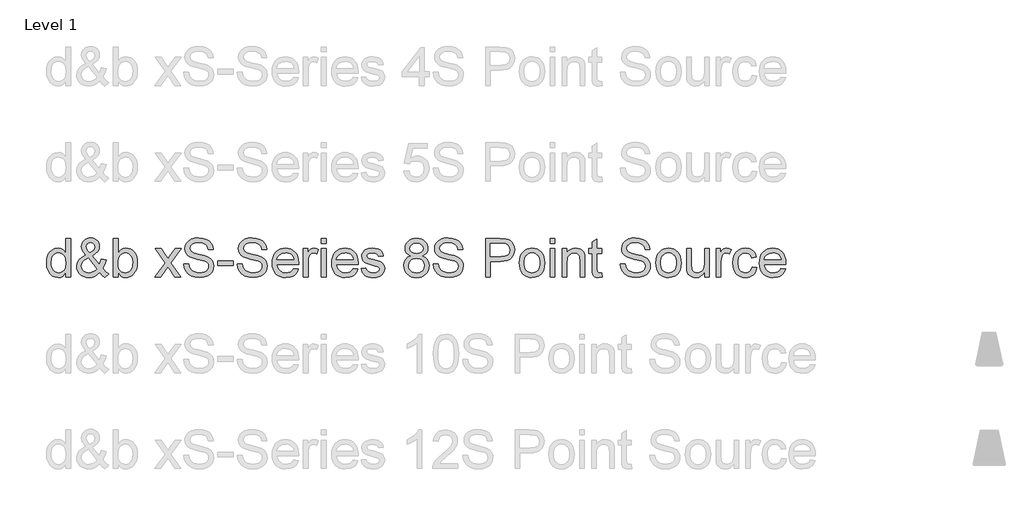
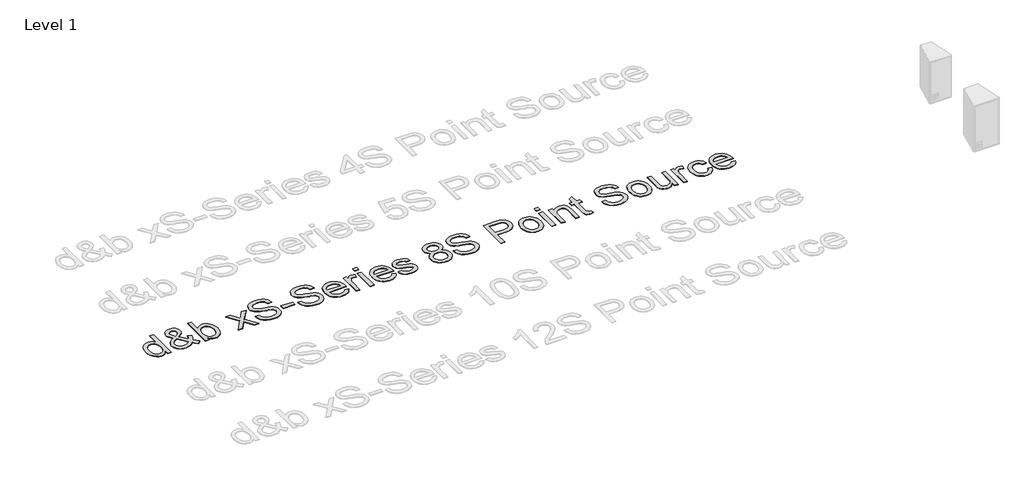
# One storey, part 48 of 55: 1 proxy.
"""IFC4 building model written with IfcOpenShell, lengths in millimetres."""

from ifc_helpers import new_model, si_unit, origin, origin_with_axes, place, context, project, spatial, polyline, outline, extrude, element, save

model = new_model("IFC4")

# Units and contexts
model_context = context("Model", 3, world=origin())
ifc_project = project(units=[si_unit("LENGTHUNIT", "METRE", prefix="MILLI")], contexts=[model_context])

# Site, building, storey
site = spatial("IfcSite", under=ifc_project)
building = spatial("IfcBuilding", under=site)
storey = spatial("IfcBuildingStorey", under=building, Name="Level 1", Elevation=0.0)

# Proxy
placement = place(None, origin())
element("IfcBuildingElementProxy", 1, Name="400mm Arial", ObjectType="400mm Arial", at=placement, inside=storey, context=model_context, shape_type="SweptSolid", body=[
    extrude(outline(polyline([(-20879.8211974, 14351.3054836), (-20879.8211974, 14398.6886846), (-20894.8491769, 14375.2116819), (-20913.0532043, 14358.4423943), (-20934.4332796, 14348.3808217), (-20958.9894028, 14345.0269642), (-20991.4611202, 14349.8830065), (-21021.1859854, 14364.4511335), (-21046.3491139, 14387.7135384), (-21065.1356211, 14418.6524142), (-21076.8342686, 14456.0169621), (-21080.7338177, 14498.5563835), (-21077.1408369, 14540.5685074), (-21066.3618944, 14578.5094038), (-21048.4092531, 14610.2208318), (-21023.2951755, 14633.5445503), (-20992.9203855, 14647.8919481), (-20959.1856065, 14652.674414), (-20934.6110892, 14649.2531115), (-20912.8815261, 14638.9892038), (-20894.4629008, 14623.2561171), (-20879.8211974, 14603.4272776), (-20879.8211974, 14753.1307242), (-20829.5930424, 14753.1307242), (-20829.5930424, 14351.3054836), (-20879.8211974, 14351.3054836)]), holes=[polyline([(-21030.5056627, 14498.7525872), (-21029.089317, 14474.3957335), (-21024.8402799, 14453.3191608), (-21017.7585515, 14435.5228693), (-21007.8441318, 14421.0068589), (-20983.1469871, 14401.6930542), (-20969.2717046, 14396.864603), (-20954.3786151, 14395.2551193), (-20939.415015, 14396.7910266), (-20925.6225058, 14401.3987486), (-20901.5507606, 14419.8296365), (-20892.0440767, 14433.7386416), (-20885.2535882, 14450.8911397), (-20879.8211974, 14494.9266145), (-20885.3516901, 14543.0701049), (-20892.2648059, 14561.6052261), (-20901.9431681, 14576.4492646), (-20913.6448812, 14587.8229496), (-20926.6280499, 14595.9470104), (-20940.8926743, 14600.8214468), (-20956.4387543, 14602.4462589), (-20971.6261493, 14600.8858262), (-20985.5014319, 14596.2045278), (-20998.064602, 14588.4023638), (-21009.3156597, 14577.4793342), (-21018.586286, 14563.1963157), (-21025.2081619, 14545.3141851), (-21030.5056627, 14498.7525872)])]), origin_with_axes(), (0.0, 0.0, 1.0), 5.0),
    extrude(outline(polyline([(-20523.809528, 14400.9450275), (-20549.3405384, 14376.4808748), (-20577.0788409, 14359.00648), (-20607.0734862, 14348.5218431), (-20639.3735254, 14345.0269642), (-20668.6814577, 14347.6144009), (-20694.8010793, 14355.376711), (-20717.7323904, 14368.3138945), (-20737.4753908, 14386.4259514), (-20750.308341, 14403.7961129), (-20759.4747341, 14422.1595558), (-20764.9745699, 14441.5162802), (-20766.8078485, 14461.8662859), (-20760.9094739, 14497.0603301), (-20743.2143499, 14528.6736562), (-20713.796053, 14556.6817387), (-20672.7281596, 14581.0600523), (-20694.6416638, 14609.4114914), (-20707.7995765, 14631.8768186), (-20714.3846642, 14651.0557332), (-20716.5796934, 14669.5479349), (-20714.8506481, 14687.1020374), (-20709.6635119, 14703.4666548), (-20701.018285, 14718.6417871), (-20688.9149674, 14732.6274343), (-20674.1935562, 14744.3444759), (-20657.6940487, 14752.7137912), (-20639.4164449, 14757.7353805), (-20619.3607448, 14759.4092436), (-20600.212487, 14757.8089569), (-20582.8913764, 14753.0080968), (-20567.397413, 14745.0066634), (-20553.7305969, 14733.8046567), (-20542.5715097, 14720.3585698), (-20534.6007332, 14705.6248959), (-20529.8182672, 14689.603635), (-20528.2241119, 14672.2947871), (-20532.9452642, 14644.31123), (-20547.108721, 14618.436863), (-20570.7144823, 14594.6716861), (-20603.7625482, 14573.0156993), (-20531.069066, 14482.4676776), (-20518.6837055, 14508.3420446), (-20509.3885538, 14538.0914353), (-20459.1603987, 14527.2021282), (-20474.6114425, 14480.6773185), (-20494.6732739, 14444.5022557), (-20466.1256311, 14411.1966724), (-20434.0463211, 14383.6790991), (-20471.7174374, 14345.0269642), (-20497.3465498, 14368.47331), (-20523.809528, 14400.9450275)]), holes=[polyline([(-20557.4584678, 14437.1446158), (-20647.1235727, 14549.0788442), (-20681.3733865, 14527.2266537), (-20702.305872, 14506.9931439), (-20713.0112381, 14487.6670765), (-20716.5796934, 14468.5372127), (-20711.6991256, 14444.8456122), (-20697.0574222, 14420.2710949), (-20686.2784798, 14409.3266056), (-20673.4639236, 14401.5091132), (-20658.6137537, 14396.8186177), (-20641.7279702, 14395.2551193), (-20619.0051256, 14398.1736498), (-20595.5710425, 14406.9292412), (-20574.1480476, 14420.3201459), (-20557.4584678, 14437.1446158)]), polyline([(-20629.1709314, 14604.7026019), (-20602.9041569, 14621.3676562), (-20587.8700461, 14635.8499441), (-20580.8067117, 14649.9398245), (-20578.452267, 14665.4276565), (-20581.5547385, 14682.9756277), (-20590.862153, 14696.9674062), (-20604.829406, 14706.1276679), (-20621.9113933, 14709.1810885), (-20639.3612626, 14706.1521934), (-20653.6473468, 14697.0655081), (-20663.1754905, 14683.6132898), (-20666.3515384, 14667.4877957), (-20662.0350563, 14649.0936959), (-20648.9875082, 14628.639457), (-20629.1709314, 14604.7026019)])]), origin_with_axes(), (0.0, 0.0, 1.0), 5.0),
    extrude(outline(polyline([(-20333.590011, 14351.3054836), (-20383.8181661, 14351.3054836), (-20383.8181661, 14753.1307242), (-20333.590011, 14753.1307242), (-20333.590011, 14604.1139907), (-20317.0721094, 14625.3591759), (-20298.4204923, 14640.5343082), (-20277.6351595, 14649.6393876), (-20254.7161112, 14652.674414), (-20228.8417442, 14649.9398245), (-20204.3898543, 14641.736056), (-20182.758393, 14628.5781433), (-20165.3453119, 14610.9811212), (-20151.6968898, 14589.116668), (-20141.3594058, 14563.1564619), (-20134.8478945, 14534.1796234), (-20132.6773907, 14503.265273), (-20134.9245365, 14467.5929822), (-20141.6659741, 14436.2126481), (-20152.9017034, 14409.1242705), (-20168.6317244, 14386.3278495), (-20187.5132678, 14368.2587122), (-20208.2035643, 14355.3521855), (-20230.702614, 14347.6082695), (-20255.0104168, 14345.0269642), (-20278.6836232, 14348.3562962), (-20299.671291, 14358.3442924), (-20317.9734203, 14374.9909527), (-20333.590011, 14398.2962771), (-20333.590011, 14351.3054836)]), holes=[polyline([(-20333.590011, 14500.9108283), (-20330.1564457, 14459.0213318), (-20319.8557498, 14430.6698927), (-20307.6849872, 14415.1759293), (-20293.5399244, 14404.1088126), (-20277.4205617, 14397.4685426), (-20259.3268989, 14395.2551193), (-20244.3050508, 14396.8860628), (-20230.3377977, 14401.7788933), (-20217.4251396, 14409.9336109), (-20205.5670767, 14421.3502155), (-20195.6526569, 14435.9980502), (-20188.5709285, 14453.8464584), (-20184.3218914, 14474.8954399), (-20182.9055458, 14499.1449947), (-20188.3379366, 14545.1057186), (-20195.1284251, 14562.8989445), (-20204.6351089, 14577.2340795), (-20216.0670419, 14588.264408), (-20228.6332778, 14596.1432141), (-20242.3338164, 14600.8704977), (-20257.1686579, 14602.4462589), (-20272.190506, 14600.8153154), (-20286.1577591, 14595.9224849), (-20299.0704171, 14587.7677673), (-20310.9284801, 14576.3511628), (-20320.8428999, 14561.8504808), (-20327.9246283, 14544.443531), (-20332.1736653, 14524.1303135), (-20333.590011, 14500.9108283)])]), origin_with_axes(), (0.0, 0.0, 1.0), 5.0),
    extrude(outline(polyline([(-19950.6003285, 14351.3054836), (-19843.2768878, 14499.7336059), (-19944.3218092, 14646.3958946), (-19884.0872638, 14646.3958946), (-19835.3306367, 14575.6644497), (-19812.4729021, 14542.4079173), (-19792.6563253, 14569.6802359), (-19737.1306695, 14646.3958946), (-19676.6999204, 14646.3958946), (-19782.8461387, 14499.635504), (-19680.623995, 14351.3054836), (-19740.9566422, 14351.3054836), (-19802.5646137, 14440.5781811), (-19813.7482263, 14456.9611926), (-19890.1695795, 14351.3054836), (-19950.6003285, 14351.3054836)])), origin_with_axes(), (0.0, 0.0, 1.0), 5.0),
    extrude(outline(polyline([(-19649.2313981, 14489.43291), (-19599.003243, 14489.43291), (-19593.2397584, 14461.5597175), (-19582.8164352, 14439.155704), (-19566.556051, 14421.3747409), (-19543.2813835, 14407.3706996), (-19514.8318425, 14398.2840144), (-19483.0468381, 14395.2551193), (-19455.063281, 14397.5482504), (-19430.5623402, 14404.4276437), (-19410.7089752, 14415.3169507), (-19396.6681457, 14429.6398231), (-19388.3172244, 14446.0841483), (-19385.533584, 14463.3378138), (-19387.6182486, 14480.150021), (-19393.8722425, 14494.6813598), (-19406.5764341, 14507.0789831), (-19428.0116917, 14517.4900435), (-19501.1466323, 14536.6689582), (-19549.1552327, 14549.360887), (-19579.8733793, 14561.4396792), (-19604.8770922, 14578.3377255), (-19622.5967416, 14598.8164899), (-19633.1549549, 14622.434514), (-19636.6743593, 14648.7503394), (-19632.3210891, 14678.1686363), (-19619.2612782, 14705.6003704), (-19597.8382834, 14728.8505125), (-19568.395461, 14745.7240333), (-19533.054264, 14755.987941), (-19493.9361452, 14759.4092436), (-19451.5561394, 14755.8285255), (-19414.4736342, 14745.0863712), (-19384.013005, 14727.40351), (-19361.4986269, 14703.000671), (-19347.249331, 14673.3984331), (-19341.5839483, 14640.1173753), (-19391.8121033, 14640.1173753), (-19401.0336787, 14670.0874951), (-19409.3968627, 14681.9455581), (-19420.2616443, 14691.7189564), (-19450.3053406, 14704.8155555), (-19491.9741079, 14709.1810885), (-19534.6238939, 14704.8646064), (-19550.9271976, 14699.4690038), (-19563.8827752, 14691.9151602), (-19580.805347, 14672.8588728), (-19586.4462043, 14650.2218674), (-19582.4485532, 14630.9203254), (-19570.4556002, 14615.3957052), (-19542.1041611, 14601.5142912), (-19488.4424407, 14587.3385717), (-19433.0639377, 14573.8740907), (-19399.5621507, 14562.1263923), (-19370.9286687, 14543.9039708), (-19350.9526764, 14521.4141181), (-19339.2172408, 14494.902089), (-19335.3054289, 14464.6131381), (-19339.805852, 14433.6497368), (-19353.3071212, 14404.5257455), (-19375.2574136, 14379.4607189), (-19405.1049061, 14360.6742117), (-19440.9979261, 14348.9387761), (-19481.0848008, 14345.0269642), (-19530.2951491, 14349.2453444), (-19570.7989567, 14361.900485), (-19603.0622077, 14383.041437), (-19627.5508858, 14412.7172513), (-19643.2717098, 14448.8677887), (-19649.2313981, 14489.43291)])), origin_with_axes(), (0.0, 0.0, 1.0), 5.0),
    extrude(outline(polyline([(-19291.3557932, 14470.5973519), (-19291.3557932, 14520.825507), (-19134.3928086, 14520.825507), (-19134.3928086, 14470.5973519), (-19291.3557932, 14470.5973519)])), origin_with_axes(), (0.0, 0.0, 1.0), 5.0),
    extrude(outline(polyline([(-19090.4431729, 14489.43291), (-19040.2150178, 14489.43291), (-19034.4515332, 14461.5597175), (-19024.02821, 14439.155704), (-19007.7678258, 14421.3747409), (-18984.4931583, 14407.3706996), (-18956.0436173, 14398.2840144), (-18924.2586129, 14395.2551193), (-18896.2750558, 14397.5482504), (-18871.774115, 14404.4276437), (-18851.9207499, 14415.3169507), (-18837.8799205, 14429.6398231), (-18829.5289992, 14446.0841483), (-18826.7453587, 14463.3378138), (-18828.8300234, 14480.150021), (-18835.0840173, 14494.6813598), (-18847.7882089, 14507.0789831), (-18869.2234665, 14517.4900435), (-18942.3584071, 14536.6689582), (-18990.3670075, 14549.360887), (-19021.0851541, 14561.4396792), (-19046.088867, 14578.3377255), (-19063.8085164, 14598.8164899), (-19074.3667297, 14622.434514), (-19077.8861341, 14648.7503394), (-19073.5328638, 14678.1686363), (-19060.473053, 14705.6003704), (-19039.0500582, 14728.8505125), (-19009.6072358, 14745.7240333), (-18974.2660388, 14755.987941), (-18935.14792, 14759.4092436), (-18892.7679141, 14755.8285255), (-18855.685409, 14745.0863712), (-18825.2247798, 14727.40351), (-18802.7104017, 14703.000671), (-18788.4611058, 14673.3984331), (-18782.7957231, 14640.1173753), (-18833.0238781, 14640.1173753), (-18842.2454535, 14670.0874951), (-18850.6086375, 14681.9455581), (-18861.4734191, 14691.7189564), (-18891.5171154, 14704.8155555), (-18933.1858827, 14709.1810885), (-18975.8356687, 14704.8646064), (-18992.1389724, 14699.4690038), (-19005.09455, 14691.9151602), (-19022.0171218, 14672.8588728), (-19027.657979, 14650.2218674), (-19023.660328, 14630.9203254), (-19011.667375, 14615.3957052), (-18983.3159359, 14601.5142912), (-18929.6542155, 14587.3385717), (-18874.2757125, 14573.8740907), (-18840.7739255, 14562.1263923), (-18812.1404435, 14543.9039708), (-18792.1644512, 14521.4141181), (-18780.4290156, 14494.902089), (-18776.5172037, 14464.6131381), (-18781.0176267, 14433.6497368), (-18794.518896, 14404.5257455), (-18816.4691883, 14379.4607189), (-18846.3166809, 14360.6742117), (-18882.2097009, 14348.9387761), (-18922.2965756, 14345.0269642), (-18971.5069238, 14349.2453444), (-19012.0107315, 14361.900485), (-19044.2739825, 14383.041437), (-19068.7626606, 14412.7172513), (-19084.4834846, 14448.8677887), (-19090.4431729, 14489.43291)])), origin_with_axes(), (0.0, 0.0, 1.0), 5.0),
    extrude(outline(polyline([(-18500.850962, 14439.204755), (-18451.6038255, 14432.9262356), (-18459.1546035, 14413.2016293), (-18469.3480004, 14395.819205), (-18482.1840164, 14380.7789628), (-18497.6626513, 14368.0809026), (-18515.6244897, 14357.9948045), (-18535.9101161, 14350.7904488), (-18583.4527326, 14345.0269642), (-18614.618469, 14347.5132333), (-18642.3874282, 14354.9720408), (-18666.7596104, 14367.4033865), (-18687.7350155, 14384.8072706), (-18704.602405, 14406.699315), (-18716.6505403, 14432.5951418), (-18723.8794215, 14462.4947509), (-18726.2890486, 14496.3981425), (-18723.8548961, 14531.4511652), (-18716.5524385, 14562.3471215), (-18704.3816758, 14589.0860112), (-18687.342608, 14611.6678343), (-18666.4223852, 14629.6082129), (-18642.6081574, 14642.4227691), (-18615.8999246, 14650.1115028), (-18586.2976867, 14652.674414), (-18557.6488763, 14650.1176342), (-18531.7407868, 14642.4472946), (-18508.5734182, 14629.6633952), (-18488.1467704, 14611.7659362), (-18471.472519, 14589.233164), (-18459.5623394, 14562.5433252), (-18452.4162316, 14531.6964199), (-18450.0341957, 14496.6924481), (-18450.3285013, 14483.1543906), (-18676.0608935, 14483.1543906), (-18673.1515601, 14463.1109533), (-18667.3666157, 14445.5568507), (-18658.7060604, 14430.492083), (-18647.1698942, 14417.9166502), (-18633.3957791, 14408.0022304), (-18618.0213774, 14400.920502), (-18582.4717139, 14395.2551193), (-18555.7389556, 14397.8793442), (-18533.2245775, 14405.7520189), (-18514.9285796, 14419.3636527), (-18500.850962, 14439.204755)]), holes=[polyline([(-18676.0608935, 14533.3825457), (-18500.2623508, 14533.3825457), (-18507.0559049, 14559.9191003), (-18520.3732332, 14578.9018113), (-18534.0707061, 14589.2025071), (-18549.65664, 14596.560147), (-18567.1310348, 14600.974731), (-18586.4938904, 14602.4462589), (-18620.3512967, 14597.7496321), (-18648.3471166, 14583.6597517), (-18667.8080741, 14561.6971966), (-18676.0608935, 14533.3825457)])]), origin_with_axes(), (0.0, 0.0, 1.0), 5.0),
    extrude(outline(polyline([(-18399.8060406, 14351.3054836), (-18399.8060406, 14646.3958946), (-18355.8564049, 14646.3958946), (-18355.8564049, 14602.7405645), (-18339.6205462, 14628.0508458), (-18324.6600117, 14642.9623293), (-18309.6504263, 14650.2463929), (-18293.2674148, 14652.674414), (-18268.2514391, 14648.7993903), (-18242.843056, 14637.1743193), (-18259.618475, 14592.1455631), (-18277.2768108, 14599.871085), (-18294.9351465, 14602.4462589), (-18309.9324692, 14599.9691868), (-18323.3356365, 14592.5379705), (-18334.1636299, 14580.7166958), (-18341.4354307, 14565.0694482), (-18347.5422718, 14537.0123147), (-18349.5778855, 14506.4045327), (-18349.5778855, 14351.3054836), (-18399.8060406, 14351.3054836)])), origin_with_axes(), (0.0, 0.0, 1.0), 5.0),
    extrude(outline(polyline([(-18211.4504591, 14702.9025691), (-18211.4504591, 14753.1307242), (-18161.222304, 14753.1307242), (-18161.222304, 14702.9025691), (-18211.4504591, 14702.9025691)])), origin_with_axes(), (0.0, 0.0, 1.0), 5.0),
    extrude(outline(polyline([(-18211.4504591, 14351.3054836), (-18211.4504591, 14646.3958946), (-18161.222304, 14646.3958946), (-18161.222304, 14351.3054836), (-18211.4504591, 14351.3054836)])), origin_with_axes(), (0.0, 0.0, 1.0), 5.0),
    extrude(outline(polyline([(-17879.2775429, 14439.204755), (-17830.0304065, 14432.9262356), (-17837.5811844, 14413.2016293), (-17847.7745814, 14395.819205), (-17860.6105973, 14380.7789628), (-17876.0892323, 14368.0809026), (-17894.0510707, 14357.9948045), (-17914.336697, 14350.7904488), (-17961.8793136, 14345.0269642), (-17993.0450499, 14347.5132333), (-18020.8140092, 14354.9720408), (-18045.1861914, 14367.4033865), (-18066.1615965, 14384.8072706), (-18083.0289859, 14406.699315), (-18095.0771213, 14432.5951418), (-18102.3060025, 14462.4947509), (-18104.7156295, 14496.3981425), (-18102.281477, 14531.4511652), (-18094.9790194, 14562.3471215), (-18082.8082567, 14589.0860112), (-18065.769189, 14611.6678343), (-18044.8489662, 14629.6082129), (-18021.0347384, 14642.4227691), (-17994.3265055, 14650.1115028), (-17964.7242676, 14652.674414), (-17936.0754573, 14650.1176342), (-17910.1673678, 14642.4472946), (-17886.9999991, 14629.6633952), (-17866.5733513, 14611.7659362), (-17849.8990999, 14589.233164), (-17837.9889203, 14562.5433252), (-17830.8428126, 14531.6964199), (-17828.4607766, 14496.6924481), (-17828.7550822, 14483.1543906), (-18054.4874745, 14483.1543906), (-18051.578141, 14463.1109533), (-18045.7931967, 14445.5568507), (-18037.1326413, 14430.492083), (-18025.5964751, 14417.9166502), (-18011.8223601, 14408.0022304), (-17996.4479584, 14400.920502), (-17960.8982949, 14395.2551193), (-17934.1655366, 14397.8793442), (-17911.6511585, 14405.7520189), (-17893.3551606, 14419.3636527), (-17879.2775429, 14439.204755)]), holes=[polyline([(-18054.4874745, 14533.3825457), (-17878.6889317, 14533.3825457), (-17885.4824859, 14559.9191003), (-17898.7998141, 14578.9018113), (-17912.4972871, 14589.2025071), (-17928.0832209, 14596.560147), (-17945.5576157, 14600.974731), (-17964.9204714, 14602.4462589), (-17998.7778777, 14597.7496321), (-18026.7736975, 14583.6597517), (-18046.234655, 14561.6971966), (-18054.4874745, 14533.3825457)])]), origin_with_axes(), (0.0, 0.0, 1.0), 5.0),
    extrude(outline(polyline([(-17797.0681797, 14439.204755), (-17746.8400246, 14445.4832743), (-17738.918299, 14423.9989658), (-17723.5898825, 14408.2045655), (-17700.7566734, 14398.4924808), (-17670.3205696, 14395.2551193), (-17640.2523479, 14398.2227007), (-17619.1113959, 14407.125445), (-17606.6034081, 14420.0258403), (-17602.4340788, 14434.9863747), (-17606.6279335, 14447.7886682), (-17619.2094978, 14457.5498038), (-17670.9091808, 14471.8726761), (-17746.545719, 14496.4471934), (-17765.6878455, 14508.7957657), (-17779.5569967, 14525.141989), (-17787.9814944, 14544.443531), (-17790.7896603, 14565.6580594), (-17788.5333174, 14585.119017), (-17781.7642887, 14603.0839211), (-17771.0957109, 14618.8415332), (-17757.1407205, 14631.6806148), (-17725.2085633, 14646.5430474), (-17704.3251287, 14651.1415724), (-17681.9946916, 14652.674414), (-17649.302245, 14650.2096047), (-17620.8772295, 14642.8151766), (-17598.0194949, 14631.214631), (-17582.0288908, 14616.1314692), (-17571.4338893, 14596.4497824), (-17564.7629625, 14571.053662), (-17614.9911176, 14564.7751426), (-17621.3309506, 14580.5818057), (-17633.8757267, 14592.4889196), (-17652.748073, 14599.9569241), (-17678.070617, 14602.4462589), (-17706.9125654, 14600.0672887), (-17726.140531, 14592.930378), (-17736.9562617, 14582.6296821), (-17740.5615053, 14570.7593564), (-17734.5772915, 14556.1421785), (-17715.8398352, 14545.0566677), (-17672.5769125, 14534.3635644), (-17598.8533607, 14510.7210148), (-17579.3801404, 14499.4147748), (-17564.6158097, 14483.9392056), (-17555.3083952, 14464.2452561), (-17552.2059237, 14440.2838755), (-17555.8479555, 14415.5131545), (-17566.7740507, 14392.2139614), (-17584.5672766, 14372.2134436), (-17608.8107, 14357.3387483), (-17638.0941069, 14348.1049102), (-17671.0072827, 14345.0269642), (-17698.040478, 14346.5107549), (-17721.6523707, 14350.962127), (-17741.8429609, 14358.3810806), (-17758.6122485, 14368.7676156), (-17772.3097214, 14382.0726811), (-17783.2848676, 14398.2472262), (-17791.5376871, 14417.2912508), (-17797.0681797, 14439.204755)])), origin_with_axes(), (0.0, 0.0, 1.0), 5.0),
    extrude(outline(polyline([(-17278.1093119, 14572.6232919), (-17305.0014857, 14585.8670437), (-17323.8738321, 14603.8196851), (-17335.0206565, 14626.113334), (-17338.7362647, 14652.3801084), (-17336.7129137, 14672.8650042), (-17330.6428608, 14691.64538), (-17320.5261059, 14708.721236), (-17306.3626491, 14724.092572), (-17288.833072, 14736.7967636), (-17268.6179564, 14745.8711861), (-17245.7173022, 14751.3158397), (-17220.1311094, 14753.1307242), (-17194.4222893, 14751.2729201), (-17171.3499568, 14745.6995079), (-17150.914112, 14736.4104875), (-17133.1147548, 14723.405859), (-17118.6937806, 14707.734086), (-17108.3930847, 14690.4436322), (-17102.2126672, 14671.5344976), (-17100.152528, 14651.0066823), (-17103.8190853, 14625.5860364), (-17114.8187569, 14603.6725323), (-17133.2741703, 14585.8302555), (-17159.3079529, 14572.6232919), (-17128.3936025, 14556.6940015), (-17105.8914872, 14533.2353929), (-17092.1694888, 14503.3756376), (-17087.5954893, 14468.2429071), (-17089.8640949, 14443.1901432), (-17096.6699118, 14420.222044), (-17108.01294, 14399.3386094), (-17123.8931795, 14380.5398395), (-17143.4767643, 14365.0029565), (-17165.9298288, 14353.905183), (-17191.2523728, 14347.2465189), (-17219.4443964, 14345.0269642), (-17247.6364199, 14347.2557159), (-17272.9589639, 14353.9419712), (-17295.4120284, 14365.08573), (-17314.9956132, 14380.6869923), (-17330.8758527, 14399.6175866), (-17342.2188809, 14420.7493415), (-17349.0246978, 14444.0822571), (-17351.2933034, 14469.6163332), (-17346.535363, 14506.1102271), (-17332.2615415, 14536.1293979), (-17309.2076032, 14558.6437761), (-17278.1093119, 14572.6232919)]), holes=[polyline([(-17288.5081096, 14650.9085804), (-17284.0567374, 14628.9828135), (-17270.702621, 14611.4716306), (-17248.8381678, 14599.9937123), (-17218.8557852, 14596.1677396), (-17189.5723783, 14599.9691868), (-17168.0390189, 14611.3735287), (-17154.7952671, 14628.2961005), (-17150.3806831, 14648.6522375), (-17154.9424199, 14669.7809268), (-17168.6276301, 14687.2553216), (-17190.4552951, 14698.9907572), (-17219.4443964, 14702.9025691), (-17248.6174386, 14699.0765963), (-17270.4083154, 14687.5986781), (-17283.983161, 14670.7742082), (-17288.5081096, 14650.9085804)]), polyline([(-17301.0651483, 14471.3821668), (-17298.968221, 14452.1664639), (-17292.6774389, 14433.5638977), (-17281.0646305, 14417.3403017), (-17263.0016246, 14405.2615095), (-17241.3701633, 14397.7567168), (-17219.0519889, 14395.2551193), (-17184.8634888, 14400.5158318), (-17170.9698121, 14407.0917225), (-17159.209851, 14416.2979694), (-17143.170196, 14440.1980363), (-17137.8236444, 14469.812537), (-17143.3418743, 14499.9298096), (-17159.8965641, 14524.3571741), (-17171.9753562, 14533.7994786), (-17186.1388131, 14540.5439819), (-17220.7197206, 14545.9395845), (-17254.4299741, 14540.6175583), (-17268.1673009, 14533.9650255), (-17279.8260945, 14524.6514797), (-17295.7553849, 14500.6900991), (-17301.0651483, 14471.3821668)])]), origin_with_axes(), (0.0, 0.0, 1.0), 5.0),
    extrude(outline(polyline([(-17043.6458536, 14489.43291), (-16993.4176985, 14489.43291), (-16987.6542139, 14461.5597175), (-16977.2308907, 14439.155704), (-16960.9705065, 14421.3747409), (-16937.695839, 14407.3706996), (-16909.246298, 14398.2840144), (-16877.4612936, 14395.2551193), (-16849.4777365, 14397.5482504), (-16824.9767957, 14404.4276437), (-16805.1234307, 14415.3169507), (-16791.0826012, 14429.6398231), (-16782.7316799, 14446.0841483), (-16779.9480394, 14463.3378138), (-16782.0327041, 14480.150021), (-16788.286698, 14494.6813598), (-16800.9908896, 14507.0789831), (-16822.4261472, 14517.4900435), (-16895.5610878, 14536.6689582), (-16943.5696882, 14549.360887), (-16974.2878348, 14561.4396792), (-16999.2915477, 14578.3377255), (-17017.0111971, 14598.8164899), (-17027.5694104, 14622.434514), (-17031.0888148, 14648.7503394), (-17026.7355445, 14678.1686363), (-17013.6757337, 14705.6003704), (-16992.2527389, 14728.8505125), (-16962.8099165, 14745.7240333), (-16927.4687195, 14755.987941), (-16888.3506007, 14759.4092436), (-16845.9705948, 14755.8285255), (-16808.8880897, 14745.0863712), (-16778.4274605, 14727.40351), (-16755.9130824, 14703.000671), (-16741.6637865, 14673.3984331), (-16735.9984038, 14640.1173753), (-16786.2265588, 14640.1173753), (-16795.4481342, 14670.0874951), (-16803.8113182, 14681.9455581), (-16814.6760998, 14691.7189564), (-16844.7197961, 14704.8155555), (-16886.3885634, 14709.1810885), (-16929.0383494, 14704.8646064), (-16945.3416531, 14699.4690038), (-16958.2972307, 14691.9151602), (-16975.2198025, 14672.8588728), (-16980.8606597, 14650.2218674), (-16976.8630087, 14630.9203254), (-16964.8700557, 14615.3957052), (-16936.5186166, 14601.5142912), (-16882.8568962, 14587.3385717), (-16827.4783932, 14573.8740907), (-16793.9766062, 14562.1263923), (-16765.3431242, 14543.9039708), (-16745.3671319, 14521.4141181), (-16733.6316963, 14494.902089), (-16729.7198844, 14464.6131381), (-16734.2203074, 14433.6497368), (-16747.7215767, 14404.5257455), (-16769.671869, 14379.4607189), (-16799.5193616, 14360.6742117), (-16835.4123816, 14348.9387761), (-16875.4992563, 14345.0269642), (-16924.7096046, 14349.2453444), (-16965.2134122, 14361.900485), (-16997.4766632, 14383.041437), (-17021.9653413, 14412.7172513), (-17037.6861653, 14448.8677887), (-17043.6458536, 14489.43291)])), origin_with_axes(), (0.0, 0.0, 1.0), 5.0),
    extrude(outline(polyline([(-16497.4146672, 14351.3054836), (-16497.4146672, 14753.1307242), (-16348.4960355, 14753.1307242), (-16288.4576939, 14749.3047514), (-16261.6881474, 14742.155578), (-16239.6520159, 14730.5182442), (-16221.907841, 14713.8654526), (-16208.0141643, 14691.6699055), (-16199.0378436, 14665.4889702), (-16196.0457367, 14636.8800137), (-16198.066022, 14612.2135259), (-16204.1268779, 14589.5213382), (-16214.2283043, 14568.8034505), (-16228.3703013, 14550.0598628), (-16247.7852736, 14534.5229799), (-16273.7056259, 14523.4252064), (-16306.1313581, 14516.7665423), (-16345.0624702, 14514.5469876), (-16447.1865121, 14514.5469876), (-16447.1865121, 14351.3054836), (-16497.4146672, 14351.3054836)]), holes=[polyline([(-16447.1865121, 14564.7751426), (-16342.1194143, 14564.7751426), (-16297.5811674, 14569.3859303), (-16280.9774267, 14575.1494149), (-16268.1506078, 14583.2182933), (-16258.5795445, 14593.3779678), (-16251.7430708, 14605.4138404), (-16246.2738918, 14635.1141801), (-16249.4989906, 14657.6776092), (-16259.1742871, 14676.709371), (-16274.0980333, 14691.0322434), (-16293.0684816, 14699.4690038), (-16343.2966366, 14702.9025691), (-16447.1865121, 14702.9025691), (-16447.1865121, 14564.7751426)])]), origin_with_axes(), (0.0, 0.0, 1.0), 5.0),
    extrude(outline(polyline([(-16145.8175816, 14498.8506891), (-16143.1013862, 14537.067497), (-16134.9528, 14569.999067), (-16121.371823, 14597.6453989), (-16102.3584553, 14620.0064928), (-16083.2163288, 14634.2987084), (-16062.0876395, 14644.5074337), (-16038.9723875, 14650.6326689), (-16013.8705727, 14652.674414), (-15986.1598614, 14650.1881449), (-15961.1040319, 14642.7293374), (-15938.703084, 14630.2979917), (-15918.9570179, 14612.8941076), (-15902.8407209, 14591.1062964), (-15891.3290801, 14565.5231694), (-15884.4220956, 14536.1447264), (-15882.1197675, 14502.9709675), (-15886.1909949, 14452.2277776), (-15898.4046771, 14413.6001681), (-15918.4051949, 14384.6723805), (-15945.8369291, 14363.0286565), (-15978.4190111, 14349.5273873), (-16013.8705727, 14345.0269642), (-16041.9859542, 14347.5040363), (-16067.2747757, 14354.9352526), (-16089.7370371, 14367.3206131), (-16109.3727386, 14384.6601178), (-16125.3173574, 14406.6594611), (-16136.7063709, 14433.0243374), (-16143.5397789, 14463.7547468), (-16145.8175816, 14498.8506891)]), holes=[polyline([(-16095.5894266, 14498.948791), (-16094.1362927, 14474.5858058), (-16089.776891, 14453.4908391), (-16082.5112216, 14435.6638907), (-16072.3392845, 14421.1049608), (-16059.9661867, 14409.7956551), (-16046.0970355, 14401.7175796), (-16030.7318308, 14396.8707344), (-16013.8705727, 14395.2551193), (-15997.0951537, 14396.8799314), (-15981.7912627, 14401.7543678), (-15967.9588997, 14409.8784286), (-15955.5980647, 14421.2521136), (-15945.4261275, 14435.9551307), (-15938.1604581, 14454.0671876), (-15933.8010564, 14475.5882843), (-15932.3479226, 14500.5184208), (-15933.8102535, 14524.1088538), (-15938.1972463, 14544.6519975), (-15945.5089009, 14562.1478521), (-15955.7452175, 14576.5964174), (-15968.1520377, 14587.9057231), (-15981.9752037, 14595.9837986), (-15997.2147154, 14600.8306439), (-16013.8705727, 14602.4462589), (-16030.7318308, 14600.8367752), (-16046.0970355, 14596.008324), (-16059.9661867, 14587.9609054), (-16072.3392845, 14576.6945193), (-16082.5112216, 14562.1785089), (-16089.776891, 14544.3822174), (-16094.1362927, 14523.3056447), (-16095.5894266, 14498.948791)])]), origin_with_axes(), (0.0, 0.0, 1.0), 5.0),
    extrude(outline(polyline([(-15825.613093, 14351.3054836), (-15825.613093, 14646.3958946), (-15775.384938, 14646.3958946), (-15775.384938, 14351.3054836), (-15825.613093, 14351.3054836)])), origin_with_axes(), (0.0, 0.0, 1.0), 5.0),
    extrude(outline(polyline([(-15825.613093, 14702.9025691), (-15825.613093, 14753.1307242), (-15775.384938, 14753.1307242), (-15775.384938, 14702.9025691), (-15825.613093, 14702.9025691)])), origin_with_axes(), (0.0, 0.0, 1.0), 5.0),
    extrude(outline(polyline([(-15700.0427053, 14351.3054836), (-15700.0427053, 14646.3958946), (-15649.8145503, 14646.3958946), (-15649.8145503, 14605.1931112), (-15632.364681, 14625.9661812), (-15611.40767, 14640.8040883), (-15586.9435173, 14649.7068326), (-15558.9722229, 14652.674414), (-15534.2137646, 14650.2831811), (-15511.539971, 14643.1094821), (-15492.6308365, 14632.0484968), (-15479.1663554, 14617.9954046), (-15470.0306192, 14600.9869937), (-15464.1077191, 14581.0600523), (-15461.4589687, 14532.4996289), (-15461.4589687, 14351.3054836), (-15511.6871238, 14351.3054836), (-15511.6871238, 14525.7306002), (-15513.1341263, 14551.7030691), (-15517.4751339, 14570.1707452), (-15525.4826986, 14583.4022343), (-15537.9293728, 14593.666142), (-15553.8831887, 14600.2512297), (-15572.4121785, 14602.4462589), (-15601.8304754, 14597.5166402), (-15626.9077647, 14582.727784), (-15636.9294834, 14570.6551232), (-15644.0878539, 14554.1556157), (-15648.3828762, 14533.2292616), (-15649.8145503, 14507.8760607), (-15649.8145503, 14351.3054836), (-15700.0427053, 14351.3054836)])), origin_with_axes(), (0.0, 0.0, 1.0), 5.0),
    extrude(outline(polyline([(-15285.660426, 14393.1949801), (-15279.3819066, 14349.8339556), (-15316.954921, 14345.0269642), (-15341.0634544, 14347.1116288), (-15359.0406213, 14353.3656227), (-15371.7448128, 14363.004131), (-15380.0344205, 14375.2423387), (-15384.5961572, 14396.2606634), (-15386.1167361, 14432.2395225), (-15386.1167361, 14596.1677396), (-15423.7878524, 14596.1677396), (-15423.7878524, 14646.3958946), (-15386.1167361, 14646.3958946), (-15386.1167361, 14718.1083582), (-15335.888581, 14747.6370197), (-15335.888581, 14646.3958946), (-15285.660426, 14646.3958946), (-15285.660426, 14596.1677396), (-15335.888581, 14596.1677396), (-15335.888581, 14433.7110505), (-15333.2398307, 14407.812158), (-15324.6559175, 14398.6396336), (-15307.537142, 14395.2551193), (-15285.660426, 14393.1949801)])), origin_with_axes(), (0.0, 0.0, 1.0), 5.0),
    extrude(outline(polyline([(-15091.0263251, 14489.43291), (-15040.79817, 14489.43291), (-15035.0346854, 14461.5597175), (-15024.6113622, 14439.155704), (-15008.350978, 14421.3747409), (-14985.0763104, 14407.3706996), (-14956.6267695, 14398.2840144), (-14924.8417651, 14395.2551193), (-14896.858208, 14397.5482504), (-14872.3572671, 14404.4276437), (-14852.5039021, 14415.3169507), (-14838.4630726, 14429.6398231), (-14830.1121513, 14446.0841483), (-14827.3285109, 14463.3378138), (-14829.4131756, 14480.150021), (-14835.6671695, 14494.6813598), (-14848.371361, 14507.0789831), (-14869.8066186, 14517.4900435), (-14942.9415593, 14536.6689582), (-14990.9501596, 14549.360887), (-15021.6683062, 14561.4396792), (-15046.6720192, 14578.3377255), (-15064.3916686, 14598.8164899), (-15074.9498819, 14622.434514), (-15078.4692863, 14648.7503394), (-15074.116016, 14678.1686363), (-15061.0562052, 14705.6003704), (-15039.6332103, 14728.8505125), (-15010.190388, 14745.7240333), (-14974.849191, 14755.987941), (-14935.7310722, 14759.4092436), (-14893.3510663, 14755.8285255), (-14856.2685612, 14745.0863712), (-14825.807932, 14727.40351), (-14803.2935539, 14703.000671), (-14789.044258, 14673.3984331), (-14783.3788752, 14640.1173753), (-14833.6070303, 14640.1173753), (-14842.8286056, 14670.0874951), (-14851.1917897, 14681.9455581), (-14862.0565713, 14691.7189564), (-14892.1002675, 14704.8155555), (-14933.7690349, 14709.1810885), (-14976.4188208, 14704.8646064), (-14992.7221246, 14699.4690038), (-15005.6777022, 14691.9151602), (-15022.600274, 14672.8588728), (-15028.2411312, 14650.2218674), (-15024.2434802, 14630.9203254), (-15012.2505272, 14615.3957052), (-14983.8990881, 14601.5142912), (-14930.2373677, 14587.3385717), (-14874.8588647, 14573.8740907), (-14841.3570777, 14562.1263923), (-14812.7235957, 14543.9039708), (-14792.7476034, 14521.4141181), (-14781.0121677, 14494.902089), (-14777.1003558, 14464.6131381), (-14781.6007789, 14433.6497368), (-14795.1020481, 14404.5257455), (-14817.0523405, 14379.4607189), (-14846.8998331, 14360.6742117), (-14882.7928531, 14348.9387761), (-14922.8797278, 14345.0269642), (-14972.090076, 14349.2453444), (-15012.5938837, 14361.900485), (-15044.8571347, 14383.041437), (-15069.3458128, 14412.7172513), (-15085.0666367, 14448.8677887), (-15091.0263251, 14489.43291)])), origin_with_axes(), (0.0, 0.0, 1.0), 5.0),
    extrude(outline(polyline([(-14720.5936814, 14498.8506891), (-14717.877486, 14537.067497), (-14709.7288998, 14569.999067), (-14696.1479228, 14597.6453989), (-14677.134555, 14620.0064928), (-14657.9924285, 14634.2987084), (-14636.8637393, 14644.5074337), (-14613.7484872, 14650.6326689), (-14588.6466724, 14652.674414), (-14560.9359612, 14650.1881449), (-14535.8801316, 14642.7293374), (-14513.4791838, 14630.2979917), (-14493.7331177, 14612.8941076), (-14477.6168206, 14591.1062964), (-14466.1051799, 14565.5231694), (-14459.1981954, 14536.1447264), (-14456.8958672, 14502.9709675), (-14460.9670947, 14452.2277776), (-14473.1807769, 14413.6001681), (-14493.1812947, 14384.6723805), (-14520.6130288, 14363.0286565), (-14553.1951108, 14349.5273873), (-14588.6466724, 14345.0269642), (-14616.7620539, 14347.5040363), (-14642.0508754, 14354.9352526), (-14664.5131369, 14367.3206131), (-14684.1488384, 14384.6601178), (-14700.0934572, 14406.6594611), (-14711.4824706, 14433.0243374), (-14718.3158787, 14463.7547468), (-14720.5936814, 14498.8506891)]), holes=[polyline([(-14670.3655263, 14498.948791), (-14668.9123924, 14474.5858058), (-14664.5529908, 14453.4908391), (-14657.2873214, 14435.6638907), (-14647.1153842, 14421.1049608), (-14634.7422864, 14409.7956551), (-14620.8731352, 14401.7175796), (-14605.5079306, 14396.8707344), (-14588.6466724, 14395.2551193), (-14571.8712535, 14396.8799314), (-14556.5673625, 14401.7543678), (-14542.7349994, 14409.8784286), (-14530.3741644, 14421.2521136), (-14520.2022272, 14435.9551307), (-14512.9365578, 14454.0671876), (-14508.5771562, 14475.5882843), (-14507.1240223, 14500.5184208), (-14508.5863532, 14524.1088538), (-14512.973346, 14544.6519975), (-14520.2850007, 14562.1478521), (-14530.5213172, 14576.5964174), (-14542.9281375, 14587.9057231), (-14556.7513035, 14595.9837986), (-14571.9908151, 14600.8306439), (-14588.6466724, 14602.4462589), (-14605.5079306, 14600.8367752), (-14620.8731352, 14596.008324), (-14634.7422864, 14587.9609054), (-14647.1153842, 14576.6945193), (-14657.2873214, 14562.1785089), (-14664.5529908, 14544.3822174), (-14668.9123924, 14523.3056447), (-14670.3655263, 14498.948791)])]), origin_with_axes(), (0.0, 0.0, 1.0), 5.0),
    extrude(outline(polyline([(-14212.0336112, 14351.3054836), (-14212.0336112, 14402.024148), (-14230.2069818, 14377.0878801), (-14251.3724593, 14359.2762601), (-14275.5300436, 14348.5892882), (-14302.6797349, 14345.0269642), (-14327.1438875, 14347.5285618), (-14349.915783, 14355.0333545), (-14369.0211213, 14366.315069), (-14382.4856023, 14380.147432), (-14391.5477622, 14396.9473764), (-14397.4461368, 14417.1318352), (-14400.3891928, 14463.8283232), (-14400.3891928, 14646.3958946), (-14350.1610377, 14646.3958946), (-14350.1610377, 14487.4708727), (-14347.1198799, 14436.261699), (-14339.7990282, 14419.1797117), (-14327.2542521, 14406.1934773), (-14310.3194176, 14397.9897088), (-14289.8283905, 14395.2551193), (-14268.160141, 14398.0510224), (-14247.889843, 14406.4387319), (-14231.1757377, 14419.6456955), (-14220.1760661, 14436.8993611), (-14214.069225, 14460.5296479), (-14212.0336112, 14492.8664753), (-14212.0336112, 14646.3958946), (-14161.8054562, 14646.3958946), (-14161.8054562, 14351.3054836), (-14212.0336112, 14351.3054836)])), origin_with_axes(), (0.0, 0.0, 1.0), 5.0),
    extrude(outline(polyline([(-14092.7417429, 14351.3054836), (-14092.7417429, 14646.3958946), (-14048.7921073, 14646.3958946), (-14048.7921073, 14602.7405645), (-14032.5562485, 14628.0508458), (-14017.5957141, 14642.9623293), (-14002.5861287, 14650.2463929), (-13986.2031171, 14652.674414), (-13961.1871415, 14648.7993903), (-13935.7787583, 14637.1743193), (-13952.5541773, 14592.1455631), (-13970.2125131, 14599.871085), (-13987.8708489, 14602.4462589), (-14002.8681715, 14599.9691868), (-14016.2713389, 14592.5379705), (-14027.0993323, 14580.7166958), (-14034.371133, 14565.0694482), (-14040.4779742, 14537.0123147), (-14042.5135879, 14506.4045327), (-14042.5135879, 14351.3054836), (-14092.7417429, 14351.3054836)])), origin_with_axes(), (0.0, 0.0, 1.0), 5.0),
    extrude(outline(polyline([(-13716.0305799, 14458.0403131), (-13665.8024248, 14451.7617937), (-13671.2654724, 14428.0609962), (-13679.8064661, 14407.0886568), (-13691.4254058, 14388.8447755), (-13706.1222915, 14373.3293524), (-13723.2778552, 14360.9470575), (-13742.2728289, 14352.1025612), (-13763.1072125, 14346.7958634), (-13785.7810062, 14345.0269642), (-13813.95157, 14347.4948392), (-13839.2097346, 14354.8984644), (-13861.5555001, 14367.2378396), (-13880.9888665, 14384.512965), (-13896.7188875, 14406.398878), (-13907.9546168, 14432.5706163), (-13914.6960543, 14463.0281798), (-13916.9432002, 14497.7715686), (-13913.1049647, 14542.469231), (-13901.5902583, 14581.2072051), (-13882.2151398, 14612.4894374), (-13854.7956685, 14634.8198745), (-13821.9928572, 14648.2107791), (-13786.4677192, 14652.674414), (-13764.1832674, 14651.1415724), (-13744.0263997, 14646.5430474), (-13725.9971163, 14638.8788392), (-13710.095417, 14628.1489477), (-13696.5910821, 14614.5986275), (-13685.7538917, 14598.4731334), (-13677.5838457, 14579.7724653), (-13672.0809442, 14558.4966233), (-13722.3090993, 14552.2181039), (-13731.42031, 14574.1316081), (-13745.6082923, 14589.8401692), (-13764.0882312, 14599.2947365), (-13786.0753118, 14602.4462589), (-13803.1419707, 14600.8950232), (-13818.5347665, 14596.241316), (-13832.2536992, 14588.4851372), (-13844.2987689, 14577.626487), (-13854.1058897, 14563.4139793), (-13861.110976, 14545.596228), (-13865.3140278, 14524.1732331), (-13866.7150451, 14499.1449947), (-13861.2336034, 14452.0683621), (-13854.3818012, 14434.1310491), (-13844.7892782, 14419.9277384), (-13832.9833318, 14409.1334675), (-13819.4912597, 14401.423274), (-13804.3130617, 14396.797158), (-13787.4487379, 14395.2551193), (-13761.4394808, 14399.1056175), (-13740.1145878, 14410.6571121), (-13724.6022304, 14430.2039088), (-13716.0305799, 14458.0403131)])), origin_with_axes(), (0.0, 0.0, 1.0), 5.0),
    extrude(outline(polyline([(-13415.2502606, 14439.204755), (-13366.0031242, 14432.9262356), (-13373.5539022, 14413.2016293), (-13383.7472991, 14395.819205), (-13396.5833151, 14380.7789628), (-13412.06195, 14368.0809026), (-13430.0237884, 14357.9948045), (-13450.3094148, 14350.7904488), (-13497.8520313, 14345.0269642), (-13529.0177676, 14347.5132333), (-13556.7867269, 14354.9720408), (-13581.1589091, 14367.4033865), (-13602.1343142, 14384.8072706), (-13619.0017037, 14406.699315), (-13631.049839, 14432.5951418), (-13638.2787202, 14462.4947509), (-13640.6883473, 14496.3981425), (-13638.2541947, 14531.4511652), (-13630.9517371, 14562.3471215), (-13618.7809745, 14589.0860112), (-13601.7419067, 14611.6678343), (-13580.8216839, 14629.6082129), (-13557.0074561, 14642.4227691), (-13530.2992233, 14650.1115028), (-13500.6969854, 14652.674414), (-13472.048175, 14650.1176342), (-13446.1400855, 14642.4472946), (-13422.9727168, 14629.6633952), (-13402.5460691, 14611.7659362), (-13385.8718176, 14589.233164), (-13373.961638, 14562.5433252), (-13366.8155303, 14531.6964199), (-13364.4334944, 14496.6924481), (-13364.7278, 14483.1543906), (-13590.4601922, 14483.1543906), (-13587.5508588, 14463.1109533), (-13581.7659144, 14445.5568507), (-13573.1053591, 14430.492083), (-13561.5691928, 14417.9166502), (-13547.7950778, 14408.0022304), (-13532.4206761, 14400.920502), (-13496.8710126, 14395.2551193), (-13470.1382543, 14397.8793442), (-13447.6238762, 14405.7520189), (-13429.3278783, 14419.3636527), (-13415.2502606, 14439.204755)]), holes=[polyline([(-13590.4601922, 14533.3825457), (-13414.6616494, 14533.3825457), (-13421.4552036, 14559.9191003), (-13434.7725318, 14578.9018113), (-13448.4700048, 14589.2025071), (-13464.0559387, 14596.560147), (-13481.5303334, 14600.974731), (-13500.8931891, 14602.4462589), (-13534.7505954, 14597.7496321), (-13562.7464152, 14583.6597517), (-13582.2073728, 14561.6971966), (-13590.4601922, 14533.3825457)])]), origin_with_axes(), (0.0, 0.0, 1.0), 5.0),
])

save(model, "model.ifc")
